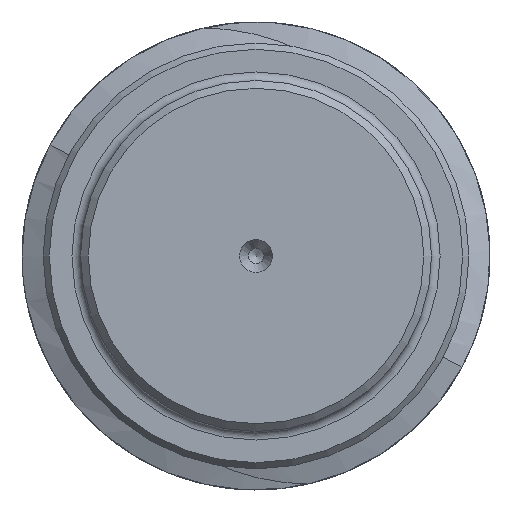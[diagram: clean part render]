
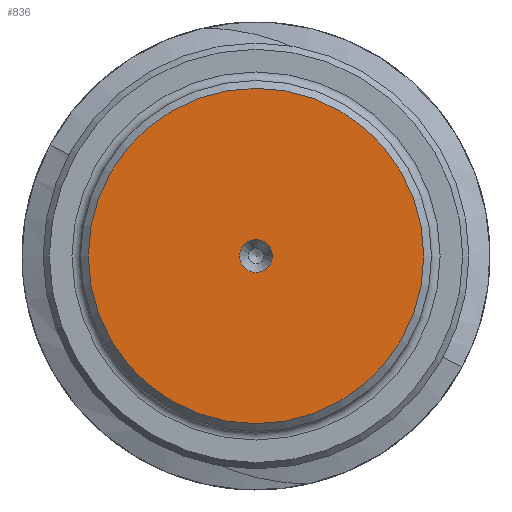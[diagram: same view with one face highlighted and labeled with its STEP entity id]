
A CAD part, left-side view. The second image highlights one B-rep face of the part: STEP entity #836.
In plain terms, the highlighted planar face has unit normal (-1, 0, 0).
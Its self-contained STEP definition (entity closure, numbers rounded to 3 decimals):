
#23=FACE_BOUND('',#136,.T.);
#33=PLANE('',#939);
#80=FACE_OUTER_BOUND('',#135,.T.);
#135=EDGE_LOOP('',(#644));
#136=EDGE_LOOP('',(#645));
#176=CIRCLE('',#909,2.125);
#192=CIRCLE('',#938,21.5);
#363=VERTEX_POINT('',#1568);
#391=VERTEX_POINT('',#1692);
#450=EDGE_CURVE('',#363,#363,#176,.T.);
#487=EDGE_CURVE('',#391,#391,#192,.T.);
#644=ORIENTED_EDGE('',*,*,#487,.F.);
#645=ORIENTED_EDGE('',*,*,#450,.T.);
#836=ADVANCED_FACE('',(#80,#23),#33,.T.);
#909=AXIS2_PLACEMENT_3D('',#1570,#1045,#1046);
#938=AXIS2_PLACEMENT_3D('',#1694,#1116,#1117);
#939=AXIS2_PLACEMENT_3D('',#1695,#1118,#1119);
#1045=DIRECTION('center_axis',(1.,0.,0.));
#1046=DIRECTION('ref_axis',(0.,-1.,0.));
#1116=DIRECTION('center_axis',(1.,0.,0.));
#1117=DIRECTION('ref_axis',(0.,-1.,0.));
#1118=DIRECTION('center_axis',(-1.,0.,0.));
#1119=DIRECTION('ref_axis',(0.,0.,1.));
#1568=CARTESIAN_POINT('',(-102.,2.125,0.));
#1570=CARTESIAN_POINT('Origin',(-102.,0.,0.));
#1692=CARTESIAN_POINT('',(-102.,21.5,0.));
#1694=CARTESIAN_POINT('Origin',(-102.,0.,0.));
#1695=CARTESIAN_POINT('Origin',(-102.,11.25,0.));
